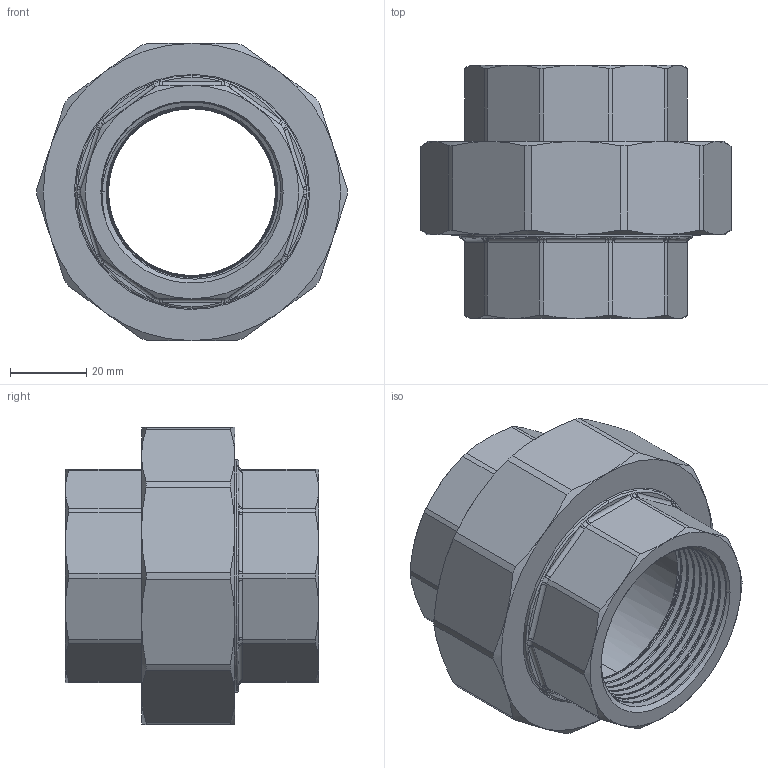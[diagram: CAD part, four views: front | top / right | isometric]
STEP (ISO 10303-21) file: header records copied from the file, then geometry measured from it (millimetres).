
FILE_DESCRIPTION (( 'STEP AP214' ), '1' );
FILE_NAME ('Union(F-type)-40A.STEP', '2022-08-10T03:00:03', ( 'ASIS User' ), ( 'ASIS User' ), 'SwSTEP 2.0', 'SolidWorks 2022', '' );
FILE_SCHEMA (( 'AUTOMOTIVE_DESIGN' ));
Length unit declared in the file: millimetre
Products named in the file (5): Union(F-type)-Gasket-40A; Union(F-type)-Nut-40A; Union(F-type)-thread-40A; Union(F-type)-Brim-40A; Union(F-type)-40A
Assembly tree (4 placements, depth 2):
  Union(F-type)-40A
    Union(F-type)-Gasket-40A
    Union(F-type)-Brim-40A
    Union(F-type)-thread-40A
    Union(F-type)-Nut-40A
Bounding box: 81.41 x 66.5 x 78 mm (x, y, z)
Volume: 113311.5 mm3; surface area: 53909.7 mm2
Topology: 4 solids, 4 shells, 335 faces, 951 edges, 629 vertices
Faces by surface type: bspline 111, cylinder 99, plane 57, cone 46, torus 22
Entity records: 41325 total; most frequent: CARTESIAN_POINT 33809, ORIENTED_EDGE 1902, DIRECTION 1030, EDGE_CURVE 951, VERTEX_POINT 629, B_SPLINE_CURVE_WITH_KNOTS 527, AXIS2_PLACEMENT_3D 438, EDGE_LOOP 348
